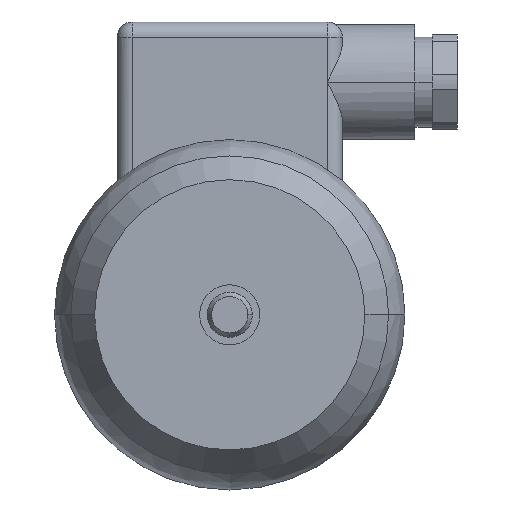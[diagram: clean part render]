
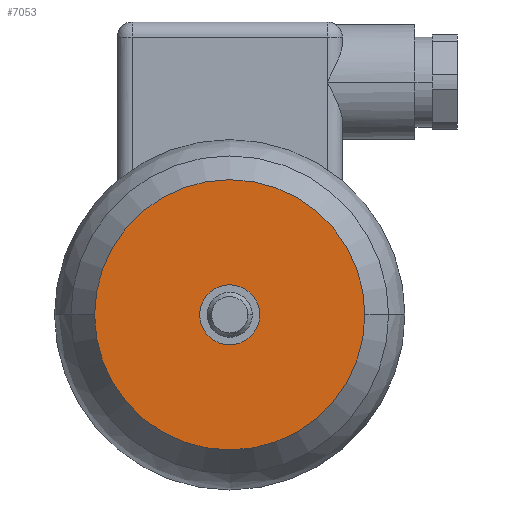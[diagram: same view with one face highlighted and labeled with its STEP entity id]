
A CAD part, left-side view. The second image highlights one B-rep face of the part: STEP entity #7053.
In plain terms, the highlighted planar face has unit normal (-1, 0, 0).
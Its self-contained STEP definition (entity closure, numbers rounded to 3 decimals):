
#1936=CARTESIAN_POINT('',(-147.,0.,0.));
#1937=DIRECTION('',(-1.,0.,0.));
#1938=DIRECTION('',(0.,1.,0.));
#1939=AXIS2_PLACEMENT_3D('',#1936,#1937,#1938);
#1941=CARTESIAN_POINT('',(-147.,0.,0.));
#1942=DIRECTION('',(1.,0.,0.));
#1943=DIRECTION('',(0.,1.,0.));
#1944=AXIS2_PLACEMENT_3D('',#1941,#1942,#1943);
#1946=CARTESIAN_POINT('',(-147.,0.,0.));
#1947=DIRECTION('',(1.,0.,0.));
#1948=DIRECTION('',(0.,1.,0.));
#1949=AXIS2_PLACEMENT_3D('',#1946,#1947,#1948);
#1959=CARTESIAN_POINT('',(-147.,0.,0.));
#1960=DIRECTION('',(-1.,0.,0.));
#1961=DIRECTION('',(0.,1.,0.));
#1962=AXIS2_PLACEMENT_3D('',#1959,#1960,#1961);
#3943=CARTESIAN_POINT('',(-147.,6.,0.));
#3945=VERTEX_POINT('',#3943);
#3963=CARTESIAN_POINT('',(-147.,-6.,0.));
#3965=VERTEX_POINT('',#3963);
#4847=CARTESIAN_POINT('',(-147.,27.,0.));
#4848=VERTEX_POINT('',#4847);
#4855=CARTESIAN_POINT('',(-147.,-27.,0.));
#4856=VERTEX_POINT('',#4855);
#7038=CARTESIAN_POINT('',(-147.,0.,0.));
#7039=DIRECTION('',(1.,0.,0.));
#7040=DIRECTION('',(0.,-1.,0.));
#7041=AXIS2_PLACEMENT_3D('',#7038,#7039,#7040);
#7042=PLANE('',#7041);
#7043=ORIENTED_EDGE('',*,*,#7031,.F.);
#7044=ORIENTED_EDGE('',*,*,#7020,.T.);
#7045=EDGE_LOOP('',(#7043,#7044));
#7046=FACE_OUTER_BOUND('',#7045,.F.);
#7048=ORIENTED_EDGE('',*,*,#7047,.F.);
#7050=ORIENTED_EDGE('',*,*,#7049,.T.);
#7051=EDGE_LOOP('',(#7048,#7050));
#7052=FACE_BOUND('',#7051,.F.);
#7053=ADVANCED_FACE('',(#7046,#7052),#7042,.F.);
#1940=CIRCLE('',#1939,27.);
#1945=CIRCLE('',#1944,27.);
#1950=CIRCLE('',#1949,6.);
#1963=CIRCLE('',#1962,6.);
#7020=EDGE_CURVE('',#4848,#4856,#1945,.T.);
#7031=EDGE_CURVE('',#4848,#4856,#1940,.T.);
#7047=EDGE_CURVE('',#3945,#3965,#1950,.T.);
#7049=EDGE_CURVE('',#3945,#3965,#1963,.T.);
